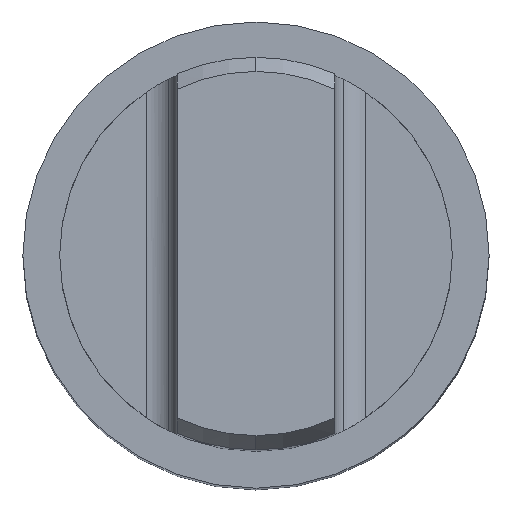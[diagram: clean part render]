
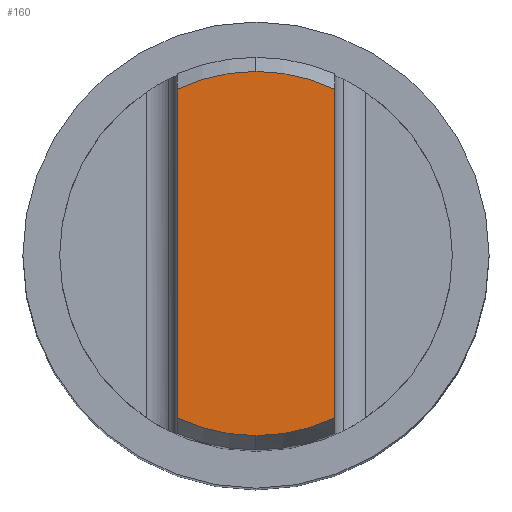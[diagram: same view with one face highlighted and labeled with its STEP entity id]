
A CAD part, top view. The second image highlights one B-rep face of the part: STEP entity #160.
In plain terms, the highlighted planar face has unit normal (0, 0, 1).
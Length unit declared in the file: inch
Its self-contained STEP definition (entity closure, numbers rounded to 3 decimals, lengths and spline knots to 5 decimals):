
#160=ADVANCED_FACE('',(#328),#329,.T.);
#328=FACE_OUTER_BOUND('',#515,.T.);
#329=PLANE('',#516);
#515=EDGE_LOOP('',(#881,#882,#883,#884,#885,#886));
#516=AXIS2_PLACEMENT_3D('',#887,#888,#889);
#881=ORIENTED_EDGE('',*,*,#1191,.F.);
#882=ORIENTED_EDGE('',*,*,#1124,.T.);
#883=ORIENTED_EDGE('',*,*,#1165,.F.);
#884=ORIENTED_EDGE('',*,*,#1111,.F.);
#885=ORIENTED_EDGE('',*,*,#1192,.T.);
#886=ORIENTED_EDGE('',*,*,#1182,.F.);
#887=CARTESIAN_POINT('',(0.,-0.31387,-0.8302));
#888=DIRECTION('',(0.,0.,1.0));
#889=DIRECTION('',(-1.0,0.,0.));
#1111=EDGE_CURVE('',#1340,#1335,#1342,.T.);
#1124=EDGE_CURVE('',#1356,#1360,#1362,.T.);
#1165=EDGE_CURVE('',#1335,#1360,#1417,.T.);
#1182=EDGE_CURVE('',#1439,#1441,#1442,.T.);
#1191=EDGE_CURVE('',#1356,#1439,#1451,.T.);
#1192=EDGE_CURVE('',#1340,#1441,#1452,.T.);
#1335=VERTEX_POINT('',#1677);
#1340=VERTEX_POINT('',#1683);
#1342=CIRCLE('',#1694,0.14612);
#1356=VERTEX_POINT('',#1710);
#1360=VERTEX_POINT('',#1724);
#1362=LINE('',#1735,#1736);
#1417=CIRCLE('',#1902,0.14612);
#1439=VERTEX_POINT('',#1951);
#1441=VERTEX_POINT('',#1954);
#1442=CIRCLE('',#1955,0.14612);
#1451=CIRCLE('',#1975,0.14612);
#1452=LINE('',#1976,#1977);
#1677=CARTESIAN_POINT('',(0.,-0.16775,-0.8302));
#1683=CARTESIAN_POINT('',(-0.063,-0.18203,-0.8302));
#1694=AXIS2_PLACEMENT_3D('',#2130,#2131,#2132);
#1710=CARTESIAN_POINT('',(0.063,-0.4457,-0.8302));
#1724=CARTESIAN_POINT('',(0.063,-0.18203,-0.8302));
#1735=CARTESIAN_POINT('',(0.063,-0.39042,-0.8302));
#1736=VECTOR('',#2148,0.3937);
#1902=AXIS2_PLACEMENT_3D('',#2191,#2192,#2193);
#1951=CARTESIAN_POINT('',(0.,-0.45998,-0.8302));
#1954=CARTESIAN_POINT('',(-0.063,-0.4457,-0.8302));
#1955=AXIS2_PLACEMENT_3D('',#2209,#2210,#2211);
#1975=AXIS2_PLACEMENT_3D('',#2220,#2221,#2222);
#1976=CARTESIAN_POINT('',(-0.063,-0.39042,-0.8302));
#1977=VECTOR('',#2223,0.3937);
#2130=CARTESIAN_POINT('',(0.,-0.31387,-0.8302));
#2131=DIRECTION('',(0.,0.,-1.0));
#2132=DIRECTION('',(0.,1.0,0.));
#2148=DIRECTION('',(0.,1.0,0.));
#2191=CARTESIAN_POINT('',(0.,-0.31387,-0.8302));
#2192=DIRECTION('',(0.,0.,-1.0));
#2193=DIRECTION('',(0.,1.0,0.));
#2209=CARTESIAN_POINT('',(0.,-0.31387,-0.8302));
#2210=DIRECTION('',(0.,0.,-1.0));
#2211=DIRECTION('',(0.,-1.0,0.));
#2220=CARTESIAN_POINT('',(0.,-0.31387,-0.8302));
#2221=DIRECTION('',(0.,0.,-1.0));
#2222=DIRECTION('',(0.,-1.0,0.));
#2223=DIRECTION('',(0.,-1.0,0.));
